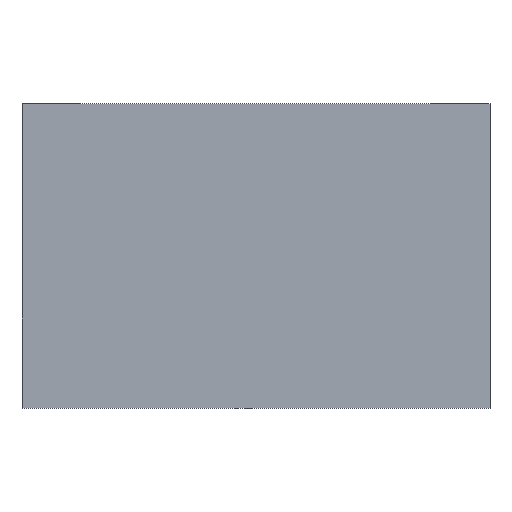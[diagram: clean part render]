
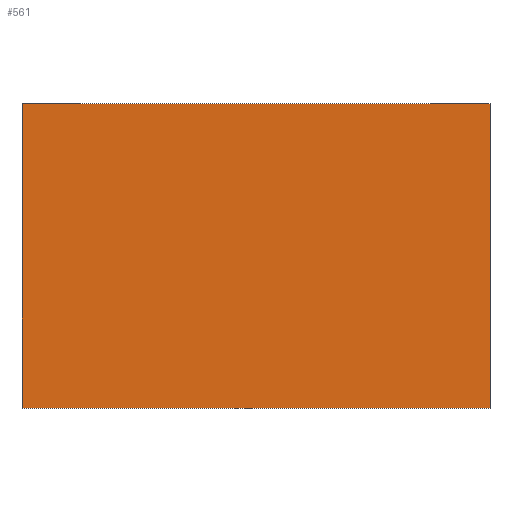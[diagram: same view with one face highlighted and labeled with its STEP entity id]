
A CAD part, top view. The second image highlights one B-rep face of the part: STEP entity #561.
In plain terms, the highlighted planar face has unit normal (0, 0, 1).
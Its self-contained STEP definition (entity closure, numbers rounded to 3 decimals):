
#10 = DIRECTION ( 'NONE',  ( 0., -1., 0. ) ) ;
#15 = VECTOR ( 'NONE', #10, 1000. ) ;
#17 = LINE ( 'NONE', #239, #15 ) ;
#33 = EDGE_CURVE ( 'NONE', #553, #432, #470, .T. ) ;
#42 = VERTEX_POINT ( 'NONE', #518 ) ;
#59 = CARTESIAN_POINT ( 'NONE',  ( 10., 11.1, 0. ) ) ;
#60 = CARTESIAN_POINT ( 'NONE',  ( 10., -1.9, 0. ) ) ;
#80 = DIRECTION ( 'NONE',  ( -1., 0., 0. ) ) ;
#82 = FACE_OUTER_BOUND ( 'NONE', #520, .T. ) ;
#126 = LINE ( 'NONE', #248, #515 ) ;
#159 = CARTESIAN_POINT ( 'NONE',  ( 10., 11.1, 0. ) ) ;
#175 = VECTOR ( 'NONE', #241, 1000. ) ;
#180 = ORIENTED_EDGE ( 'NONE', *, *, #419, .T. ) ;
#227 = ORIENTED_EDGE ( 'NONE', *, *, #521, .F. ) ;
#239 = CARTESIAN_POINT ( 'NONE',  ( -10., 11.1, 0. ) ) ;
#241 = DIRECTION ( 'NONE',  ( -1., 0., 0. ) ) ;
#243 = CARTESIAN_POINT ( 'NONE',  ( 10., 11.1, 0. ) ) ;
#248 = CARTESIAN_POINT ( 'NONE',  ( 10., 11.1, 0. ) ) ;
#266 = PLANE ( 'NONE',  #576 ) ;
#290 = DIRECTION ( 'NONE',  ( 0., 0., -1. ) ) ;
#307 = VECTOR ( 'NONE', #80, 1000. ) ;
#332 = VERTEX_POINT ( 'NONE', #59 ) ;
#336 = EDGE_CURVE ( 'NONE', #42, #432, #17, .T. ) ;
#341 = ORIENTED_EDGE ( 'NONE', *, *, #33, .F. ) ;
#419 = EDGE_CURVE ( 'NONE', #332, #42, #578, .T. ) ;
#429 = ORIENTED_EDGE ( 'NONE', *, *, #336, .T. ) ;
#432 = VERTEX_POINT ( 'NONE', #583 ) ;
#436 = DIRECTION ( 'NONE',  ( 0., -1., 0. ) ) ;
#438 = DIRECTION ( 'NONE',  ( 0., 1., 0. ) ) ;
#470 = LINE ( 'NONE', #60, #175 ) ;
#515 = VECTOR ( 'NONE', #436, 1000. ) ;
#518 = CARTESIAN_POINT ( 'NONE',  ( -10., 11.1, 0. ) ) ;
#520 = EDGE_LOOP ( 'NONE', ( #180, #429, #341, #227 ) ) ;
#521 = EDGE_CURVE ( 'NONE', #332, #553, #126, .T. ) ;
#553 = VERTEX_POINT ( 'NONE', #590 ) ;
#561 = ADVANCED_FACE ( 'NONE', ( #82 ), #266, .F. ) ;
#576 = AXIS2_PLACEMENT_3D ( 'NONE', #243, #290, #438 ) ;
#578 = LINE ( 'NONE', #159, #307 ) ;
#583 = CARTESIAN_POINT ( 'NONE',  ( -10., -1.9, 0. ) ) ;
#590 = CARTESIAN_POINT ( 'NONE',  ( 10., -1.9, 0. ) ) ;
